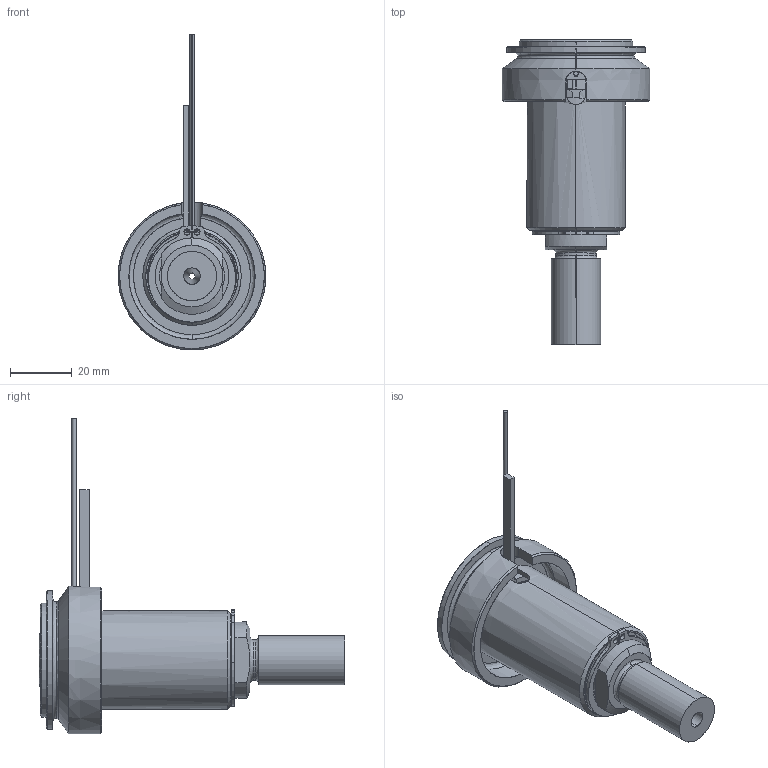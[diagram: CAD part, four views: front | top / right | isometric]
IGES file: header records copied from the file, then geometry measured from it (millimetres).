
Start section: SolidWorks IGES file using analytic representation for surfaces
Global section: file name: C:\Documents and Settings\ws-20\Desktop\TEMPORANEA\UGBE5001-M-A-P-3 [Ød-2.0 P-25 ØC-12].IGS; native system: SolidWorks 2012; preprocessor: SolidWorks 2012; author: ws-20; date: 120306.144639; units: millimetre
Bounding box: 48 x 99.25 x 102.65 mm (x, y, z)
Surface area: 31143.4 mm2 (no closed solid volume)
Topology: 0 solids, 0 shells, 112 faces, 2112 edges, 2112 vertices
Faces by surface type: revolution 64, bspline 48
